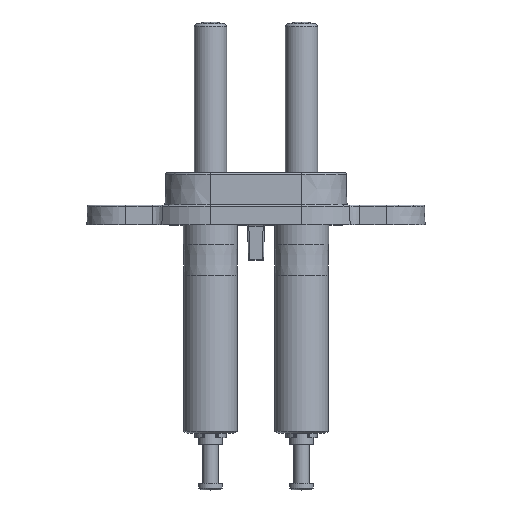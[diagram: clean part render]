
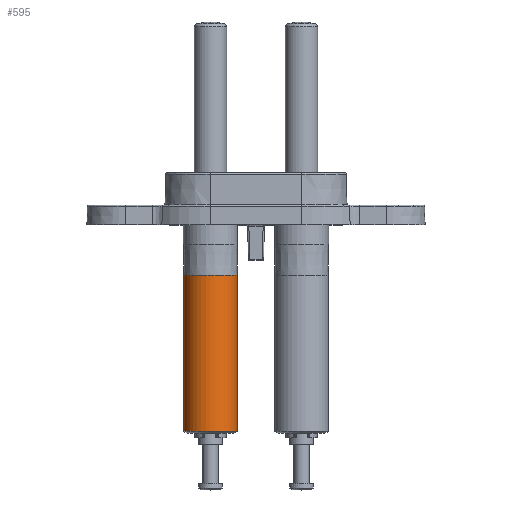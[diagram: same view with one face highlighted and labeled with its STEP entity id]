
A CAD part, top view. The second image highlights one B-rep face of the part: STEP entity #595.
In plain terms, the highlighted cylindrical face has radius 2.05 mm (diameter 4.1 mm), a partial arc.
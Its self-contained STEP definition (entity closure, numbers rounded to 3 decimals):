
#255 = CARTESIAN_POINT ( 'NONE',  ( 0., 0., -13.475 ) ) ;
#296 = CARTESIAN_POINT ( 'NONE',  ( 2.05, 0., -13.475 ) ) ;
#498 = DIRECTION ( 'NONE',  ( 0., 0., 1. ) ) ;
#595 = ADVANCED_FACE ( 'NONE', ( #5328 ), #3462, .T. ) ;
#682 = DIRECTION ( 'NONE',  ( 1., 0., 0. ) ) ;
#699 = AXIS2_PLACEMENT_3D ( 'NONE', #5359, #4305, #1550 ) ;
#1219 = EDGE_CURVE ( 'NONE', #4291, #5850, #2136, .T. ) ;
#1223 = DIRECTION ( 'NONE',  ( 0., 0., 1. ) ) ;
#1239 = VECTOR ( 'NONE', #2068, 1000. ) ;
#1271 = AXIS2_PLACEMENT_3D ( 'NONE', #255, #2082, #2558 ) ;
#1275 = CARTESIAN_POINT ( 'NONE',  ( 2.05, 0., -1.475 ) ) ;
#1550 = DIRECTION ( 'NONE',  ( 1., 0., 0. ) ) ;
#1565 = ORIENTED_EDGE ( 'NONE', *, *, #4983, .F. ) ;
#1781 = VERTEX_POINT ( 'NONE', #1275 ) ;
#2010 = EDGE_LOOP ( 'NONE', ( #1565, #3878, #2325, #4121 ) ) ;
#2068 = DIRECTION ( 'NONE',  ( 0., 0., 1. ) ) ;
#2082 = DIRECTION ( 'NONE',  ( 0., 0., 1. ) ) ;
#2136 = CIRCLE ( 'NONE', #1271, 2.05 ) ;
#2325 = ORIENTED_EDGE ( 'NONE', *, *, #5677, .T. ) ;
#2558 = DIRECTION ( 'NONE',  ( 1., 0., 0. ) ) ;
#2564 = CARTESIAN_POINT ( 'NONE',  ( 0., 0., -1.475 ) ) ;
#3233 = LINE ( 'NONE', #6013, #5527 ) ;
#3277 = CARTESIAN_POINT ( 'NONE',  ( -2.05, 0., -13.475 ) ) ;
#3462 = CYLINDRICAL_SURFACE ( 'NONE', #699, 2.05 ) ;
#3830 = AXIS2_PLACEMENT_3D ( 'NONE', #2564, #1223, #682 ) ;
#3848 = LINE ( 'NONE', #4790, #1239 ) ;
#3878 = ORIENTED_EDGE ( 'NONE', *, *, #1219, .T. ) ;
#4121 = ORIENTED_EDGE ( 'NONE', *, *, #5221, .F. ) ;
#4291 = VERTEX_POINT ( 'NONE', #3277 ) ;
#4305 = DIRECTION ( 'NONE',  ( 0., 0., 1. ) ) ;
#4790 = CARTESIAN_POINT ( 'NONE',  ( 2.05, 0., 6.375 ) ) ;
#4858 = VERTEX_POINT ( 'NONE', #4882 ) ;
#4882 = CARTESIAN_POINT ( 'NONE',  ( -2.05, 0., -1.475 ) ) ;
#4983 = EDGE_CURVE ( 'NONE', #4291, #4858, #3233, .T. ) ;
#5221 = EDGE_CURVE ( 'NONE', #4858, #1781, #5322, .T. ) ;
#5322 = CIRCLE ( 'NONE', #3830, 2.05 ) ;
#5328 = FACE_OUTER_BOUND ( 'NONE', #2010, .T. ) ;
#5359 = CARTESIAN_POINT ( 'NONE',  ( 0., 0., 6.375 ) ) ;
#5527 = VECTOR ( 'NONE', #498, 1000. ) ;
#5677 = EDGE_CURVE ( 'NONE', #5850, #1781, #3848, .T. ) ;
#5850 = VERTEX_POINT ( 'NONE', #296 ) ;
#6013 = CARTESIAN_POINT ( 'NONE',  ( -2.05, 0., 6.375 ) ) ;
